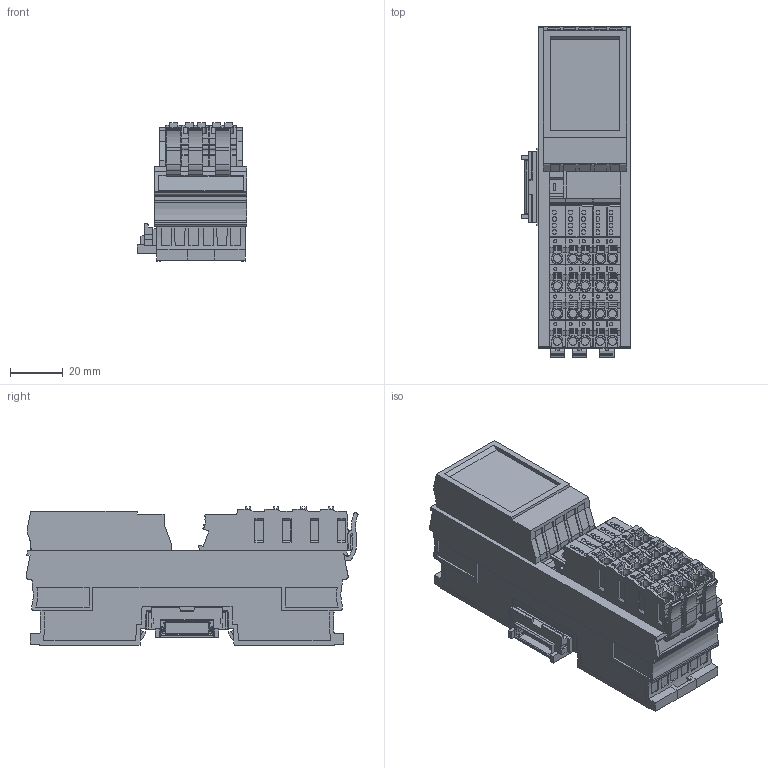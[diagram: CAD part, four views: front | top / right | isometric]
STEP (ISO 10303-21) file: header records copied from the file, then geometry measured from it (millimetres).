
FILE_DESCRIPTION((''),'2;1');
FILE_NAME('CU_REM-11115','2017-05-11T',('dkendric'),(''),'CREO PARAMETRIC BY PTC INC, 2015380','CREO PARAMETRIC BY PTC INC, 2015380','');
FILE_SCHEMA(('CONFIG_CONTROL_DESIGN'));
Products named in the file (1): CU_REM-11115
Bounding box: 41.8 x 126.17 x 52.6 mm (x, y, z)
Volume: 178448.1 mm3; surface area: 46901.4 mm2
Topology: 1 solids, 1 shells, 2330 faces, 6599 edges, 4432 vertices
Faces by surface type: plane 1897, cylinder 393, cone 40
Entity records: 75835 total; most frequent: CARTESIAN_POINT 15012, ORIENTED_EDGE 13198, DIRECTION 11626, EDGE_CURVE 6599, VECTOR 5388, LINE 5388, VERTEX_POINT 4432, AXIS2_PLACEMENT_3D 3119
